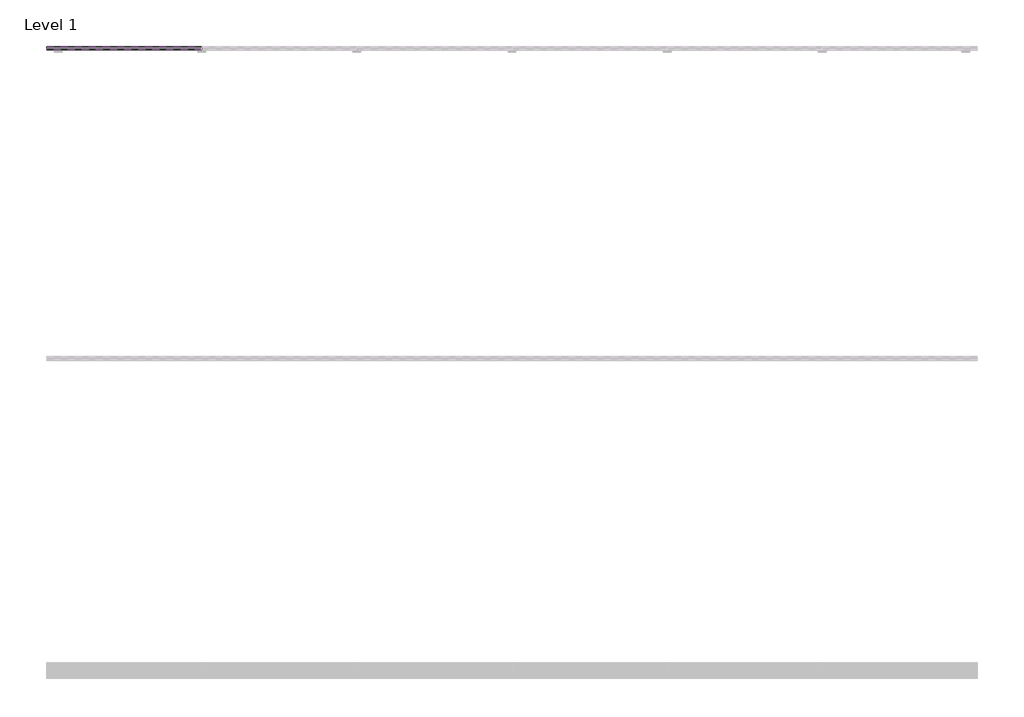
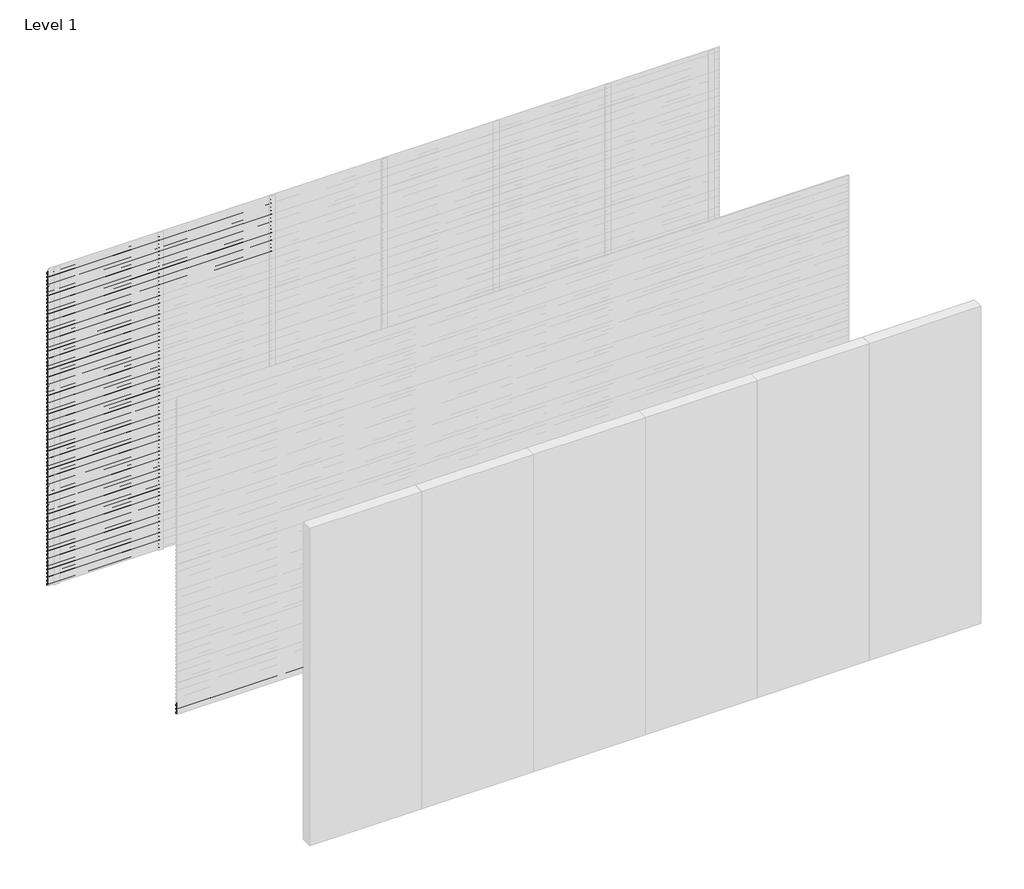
# One storey, part 21 of 25: 103 proxies.
"""IFC4 building model written with IfcOpenShell, lengths in millimetres."""

from ifc_helpers import new_model, si_unit, frame, origin, place, context, project, spatial, polyline, outline, extrude, element, save

model = new_model("IFC4")

# Units and contexts
model_context = context("Model", 3, world=origin())
ifc_project = project(units=[si_unit("LENGTHUNIT", "METRE", prefix="MILLI")], contexts=[model_context])

# Site, building, storey
site = spatial("IfcSite", under=ifc_project)
building = spatial("IfcBuilding", under=site)
storey = spatial("IfcBuildingStorey", under=building, Name="Level 1", Elevation=0.0)

# Proxies
placement = place(None, origin())
element("IfcBuildingElementProxy", 1, Name="Wall Sweeps", at=placement, inside=storey, context=model_context, shape_type="SweptSolid", body=[
    extrude(outline(polyline([(5.0, 2975.0), (5.0, 2963.942893), (24.0, 2948.0), (24.0, 2935.0), (3.0, 2952.6210923), (3.0, 2975.0), (5.0, 2975.0)])), frame((0.0, 0.0, 0.0), z_axis=(1.0, 0.0, 0.0), x_axis=(0.0, 1.0, 0.0)), (0.0, 0.0, 1.0), 1000.0),
])
element("IfcBuildingElementProxy", 2, Name="Wall Sweeps", at=placement, inside=storey, context=model_context, shape_type="SweptSolid", body=[
    extrude(outline(polyline([(5.0, 2940.0), (5.0, 2928.942893), (24.0, 2913.0), (24.0, 2900.0), (3.0, 2917.6210923), (3.0, 2940.0), (5.0, 2940.0)])), frame((0.0, 0.0, 0.0), z_axis=(1.0, 0.0, 0.0), x_axis=(0.0, 1.0, 0.0)), (0.0, 0.0, 1.0), 1000.0),
])
element("IfcBuildingElementProxy", 3, Name="Wall Sweeps", at=placement, inside=storey, context=model_context, shape_type="SweptSolid", body=[
    extrude(outline(polyline([(5.0, 2905.0), (5.0, 2893.942893), (24.0, 2878.0), (24.0, 2865.0), (3.0, 2882.6210923), (3.0, 2905.0), (5.0, 2905.0)])), frame((0.0, 0.0, 0.0), z_axis=(1.0, 0.0, 0.0), x_axis=(0.0, 1.0, 0.0)), (0.0, 0.0, 1.0), 1000.0),
])
element("IfcBuildingElementProxy", 4, Name="Wall Sweeps", at=placement, inside=storey, context=model_context, shape_type="SweptSolid", body=[
    extrude(outline(polyline([(5.0, 2870.0), (5.0, 2858.942893), (24.0, 2843.0), (24.0, 2830.0), (3.0, 2847.6210923), (3.0, 2870.0), (5.0, 2870.0)])), frame((0.0, 0.0, 0.0), z_axis=(1.0, 0.0, 0.0), x_axis=(0.0, 1.0, 0.0)), (0.0, 0.0, 1.0), 1000.0),
])
element("IfcBuildingElementProxy", 5, Name="Wall Sweeps", at=placement, inside=storey, context=model_context, shape_type="SweptSolid", body=[
    extrude(outline(polyline([(5.0, 2835.0), (5.0, 2823.942893), (24.0, 2808.0), (24.0, 2795.0), (3.0, 2812.6210923), (3.0, 2835.0), (5.0, 2835.0)])), frame((0.0, 0.0, 0.0), z_axis=(1.0, 0.0, 0.0), x_axis=(0.0, 1.0, 0.0)), (0.0, 0.0, 1.0), 1000.0),
])
element("IfcBuildingElementProxy", 6, Name="Wall Sweeps", at=placement, inside=storey, context=model_context, shape_type="SweptSolid", body=[
    extrude(outline(polyline([(5.0, 2800.0), (5.0, 2788.942893), (24.0, 2773.0), (24.0, 2760.0), (3.0, 2777.6210923), (3.0, 2800.0), (5.0, 2800.0)])), frame((0.0, 0.0, 0.0), z_axis=(1.0, 0.0, 0.0), x_axis=(0.0, 1.0, 0.0)), (0.0, 0.0, 1.0), 1000.0),
])
element("IfcBuildingElementProxy", 7, Name="Wall Sweeps", at=placement, inside=storey, context=model_context, shape_type="SweptSolid", body=[
    extrude(outline(polyline([(5.0, 2765.0), (5.0, 2753.942893), (24.0, 2738.0), (24.0, 2725.0), (3.0, 2742.6210923), (3.0, 2765.0), (5.0, 2765.0)])), frame((0.0, 0.0, 0.0), z_axis=(1.0, 0.0, 0.0), x_axis=(0.0, 1.0, 0.0)), (0.0, 0.0, 1.0), 1000.0),
])
element("IfcBuildingElementProxy", 8, Name="Wall Sweeps", at=placement, inside=storey, context=model_context, shape_type="SweptSolid", body=[
    extrude(outline(polyline([(5.0, 2730.0), (5.0, 2718.942893), (24.0, 2703.0), (24.0, 2690.0), (3.0, 2707.6210923), (3.0, 2730.0), (5.0, 2730.0)])), frame((0.0, 0.0, 0.0), z_axis=(1.0, 0.0, 0.0), x_axis=(0.0, 1.0, 0.0)), (0.0, 0.0, 1.0), 1000.0),
])
element("IfcBuildingElementProxy", 9, Name="Wall Sweeps", at=placement, inside=storey, context=model_context, shape_type="SweptSolid", body=[
    extrude(outline(polyline([(5.0, 2695.0), (5.0, 2683.942893), (24.0, 2668.0), (24.0, 2655.0), (3.0, 2672.6210923), (3.0, 2695.0), (5.0, 2695.0)])), frame((0.0, 0.0, 0.0), z_axis=(1.0, 0.0, 0.0), x_axis=(0.0, 1.0, 0.0)), (0.0, 0.0, 1.0), 1000.0),
])
element("IfcBuildingElementProxy", 10, Name="Wall Sweeps", at=placement, inside=storey, context=model_context, shape_type="SweptSolid", body=[
    extrude(outline(polyline([(5.0, 2660.0), (5.0, 2648.942893), (24.0, 2633.0), (24.0, 2620.0), (3.0, 2637.6210923), (3.0, 2660.0), (5.0, 2660.0)])), frame((0.0, 0.0, 0.0), z_axis=(1.0, 0.0, 0.0), x_axis=(0.0, 1.0, 0.0)), (0.0, 0.0, 1.0), 1000.0),
])
element("IfcBuildingElementProxy", 11, Name="Wall Sweeps", at=placement, inside=storey, context=model_context, shape_type="SweptSolid", body=[
    extrude(outline(polyline([(5.0, 2625.0), (5.0, 2613.942893), (24.0, 2598.0), (24.0, 2585.0), (3.0, 2602.6210923), (3.0, 2625.0), (5.0, 2625.0)])), frame((0.0, 0.0, 0.0), z_axis=(1.0, 0.0, 0.0), x_axis=(0.0, 1.0, 0.0)), (0.0, 0.0, 1.0), 1000.0),
])
element("IfcBuildingElementProxy", 12, Name="Wall Sweeps", at=placement, inside=storey, context=model_context, shape_type="SweptSolid", body=[
    extrude(outline(polyline([(5.0, 2590.0), (5.0, 2578.942893), (24.0, 2563.0), (24.0, 2550.0), (3.0, 2567.6210923), (3.0, 2590.0), (5.0, 2590.0)])), frame((0.0, 0.0, 0.0), z_axis=(1.0, 0.0, 0.0), x_axis=(0.0, 1.0, 0.0)), (0.0, 0.0, 1.0), 1000.0),
])
element("IfcBuildingElementProxy", 13, Name="Wall Sweeps", at=placement, inside=storey, context=model_context, shape_type="SweptSolid", body=[
    extrude(outline(polyline([(5.0, 2555.0), (5.0, 2543.942893), (24.0, 2528.0), (24.0, 2515.0), (3.0, 2532.6210923), (3.0, 2555.0), (5.0, 2555.0)])), frame((0.0, 0.0, 0.0), z_axis=(1.0, 0.0, 0.0), x_axis=(0.0, 1.0, 0.0)), (0.0, 0.0, 1.0), 1000.0),
])
element("IfcBuildingElementProxy", 14, Name="Wall Sweeps", at=placement, inside=storey, context=model_context, shape_type="SweptSolid", body=[
    extrude(outline(polyline([(5.0, 2520.0), (5.0, 2508.942893), (24.0, 2493.0), (24.0, 2480.0), (3.0, 2497.6210923), (3.0, 2520.0), (5.0, 2520.0)])), frame((0.0, 0.0, 0.0), z_axis=(1.0, 0.0, 0.0), x_axis=(0.0, 1.0, 0.0)), (0.0, 0.0, 1.0), 1000.0),
])
element("IfcBuildingElementProxy", 15, Name="Wall Sweeps", at=placement, inside=storey, context=model_context, shape_type="SweptSolid", body=[
    extrude(outline(polyline([(5.0, 2485.0), (5.0, 2473.942893), (24.0, 2458.0), (24.0, 2445.0), (3.0, 2462.6210923), (3.0, 2485.0), (5.0, 2485.0)])), frame((0.0, 0.0, 0.0), z_axis=(1.0, 0.0, 0.0), x_axis=(0.0, 1.0, 0.0)), (0.0, 0.0, 1.0), 1000.0),
])
element("IfcBuildingElementProxy", 16, Name="Wall Sweeps", at=placement, inside=storey, context=model_context, shape_type="SweptSolid", body=[
    extrude(outline(polyline([(5.0, 2450.0), (5.0, 2438.942893), (24.0, 2423.0), (24.0, 2410.0), (3.0, 2427.6210923), (3.0, 2450.0), (5.0, 2450.0)])), frame((0.0, 0.0, 0.0), z_axis=(1.0, 0.0, 0.0), x_axis=(0.0, 1.0, 0.0)), (0.0, 0.0, 1.0), 1000.0),
])
element("IfcBuildingElementProxy", 17, Name="Wall Sweeps", at=placement, inside=storey, context=model_context, shape_type="SweptSolid", body=[
    extrude(outline(polyline([(5.0, 2415.0), (5.0, 2403.942893), (24.0, 2388.0), (24.0, 2375.0), (3.0, 2392.6210923), (3.0, 2415.0), (5.0, 2415.0)])), frame((0.0, 0.0, 0.0), z_axis=(1.0, 0.0, 0.0), x_axis=(0.0, 1.0, 0.0)), (0.0, 0.0, 1.0), 1000.0),
])
element("IfcBuildingElementProxy", 18, Name="Wall Sweeps", at=placement, inside=storey, context=model_context, shape_type="SweptSolid", body=[
    extrude(outline(polyline([(5.0, 2380.0), (5.0, 2368.942893), (24.0, 2353.0), (24.0, 2340.0), (3.0, 2357.6210923), (3.0, 2380.0), (5.0, 2380.0)])), frame((0.0, 0.0, 0.0), z_axis=(1.0, 0.0, 0.0), x_axis=(0.0, 1.0, 0.0)), (0.0, 0.0, 1.0), 1000.0),
])
element("IfcBuildingElementProxy", 19, Name="Wall Sweeps", at=placement, inside=storey, context=model_context, shape_type="SweptSolid", body=[
    extrude(outline(polyline([(5.0, 2345.0), (5.0, 2333.942893), (24.0, 2318.0), (24.0, 2305.0), (3.0, 2322.6210923), (3.0, 2345.0), (5.0, 2345.0)])), frame((0.0, 0.0, 0.0), z_axis=(1.0, 0.0, 0.0), x_axis=(0.0, 1.0, 0.0)), (0.0, 0.0, 1.0), 1000.0),
])
element("IfcBuildingElementProxy", 20, Name="Wall Sweeps", at=placement, inside=storey, context=model_context, shape_type="SweptSolid", body=[
    extrude(outline(polyline([(5.0, 2310.0), (5.0, 2298.942893), (24.0, 2283.0), (24.0, 2270.0), (3.0, 2287.6210923), (3.0, 2310.0), (5.0, 2310.0)])), frame((0.0, 0.0, 0.0), z_axis=(1.0, 0.0, 0.0), x_axis=(0.0, 1.0, 0.0)), (0.0, 0.0, 1.0), 1000.0),
])
element("IfcBuildingElementProxy", 21, Name="Wall Sweeps", at=placement, inside=storey, context=model_context, shape_type="SweptSolid", body=[
    extrude(outline(polyline([(5.0, 2275.0), (5.0, 2263.942893), (24.0, 2248.0), (24.0, 2235.0), (3.0, 2252.6210923), (3.0, 2275.0), (5.0, 2275.0)])), frame((0.0, 0.0, 0.0), z_axis=(1.0, 0.0, 0.0), x_axis=(0.0, 1.0, 0.0)), (0.0, 0.0, 1.0), 1000.0),
])
element("IfcBuildingElementProxy", 22, Name="Wall Sweeps", at=placement, inside=storey, context=model_context, shape_type="SweptSolid", body=[
    extrude(outline(polyline([(5.0, 2240.0), (5.0, 2228.942893), (24.0, 2213.0), (24.0, 2200.0), (3.0, 2217.6210923), (3.0, 2240.0), (5.0, 2240.0)])), frame((0.0, 0.0, 0.0), z_axis=(1.0, 0.0, 0.0), x_axis=(0.0, 1.0, 0.0)), (0.0, 0.0, 1.0), 1000.0),
])
element("IfcBuildingElementProxy", 23, Name="Wall Sweeps", at=placement, inside=storey, context=model_context, shape_type="SweptSolid", body=[
    extrude(outline(polyline([(5.0, 2205.0), (5.0, 2193.942893), (24.0, 2178.0), (24.0, 2165.0), (3.0, 2182.6210923), (3.0, 2205.0), (5.0, 2205.0)])), frame((0.0, 0.0, 0.0), z_axis=(1.0, 0.0, 0.0), x_axis=(0.0, 1.0, 0.0)), (0.0, 0.0, 1.0), 1000.0),
])
element("IfcBuildingElementProxy", 24, Name="Wall Sweeps", at=placement, inside=storey, context=model_context, shape_type="SweptSolid", body=[
    extrude(outline(polyline([(5.0, 2170.0), (5.0, 2158.942893), (24.0, 2143.0), (24.0, 2130.0), (3.0, 2147.6210923), (3.0, 2170.0), (5.0, 2170.0)])), frame((0.0, 0.0, 0.0), z_axis=(1.0, 0.0, 0.0), x_axis=(0.0, 1.0, 0.0)), (0.0, 0.0, 1.0), 1000.0),
])
element("IfcBuildingElementProxy", 25, Name="Wall Sweeps", at=placement, inside=storey, context=model_context, shape_type="SweptSolid", body=[
    extrude(outline(polyline([(5.0, 2135.0), (5.0, 2123.942893), (24.0, 2108.0), (24.0, 2095.0), (3.0, 2112.6210923), (3.0, 2135.0), (5.0, 2135.0)])), frame((0.0, 0.0, 0.0), z_axis=(1.0, 0.0, 0.0), x_axis=(0.0, 1.0, 0.0)), (0.0, 0.0, 1.0), 1000.0),
])
element("IfcBuildingElementProxy", 26, Name="Wall Sweeps", at=placement, inside=storey, context=model_context, shape_type="SweptSolid", body=[
    extrude(outline(polyline([(5.0, 2100.0), (5.0, 2088.942893), (24.0, 2073.0), (24.0, 2060.0), (3.0, 2077.6210923), (3.0, 2100.0), (5.0, 2100.0)])), frame((0.0, 0.0, 0.0), z_axis=(1.0, 0.0, 0.0), x_axis=(0.0, 1.0, 0.0)), (0.0, 0.0, 1.0), 1000.0),
])
element("IfcBuildingElementProxy", 27, Name="Wall Sweeps", at=placement, inside=storey, context=model_context, shape_type="SweptSolid", body=[
    extrude(outline(polyline([(5.0, 2065.0), (5.0, 2053.942893), (24.0, 2038.0), (24.0, 2025.0), (3.0, 2042.6210923), (3.0, 2065.0), (5.0, 2065.0)])), frame((0.0, 0.0, 0.0), z_axis=(1.0, 0.0, 0.0), x_axis=(0.0, 1.0, 0.0)), (0.0, 0.0, 1.0), 1000.0),
])
element("IfcBuildingElementProxy", 28, Name="Wall Sweeps", at=placement, inside=storey, context=model_context, shape_type="SweptSolid", body=[
    extrude(outline(polyline([(5.0, 2030.0), (5.0, 2018.942893), (24.0, 2003.0), (24.0, 1990.0), (3.0, 2007.6210923), (3.0, 2030.0), (5.0, 2030.0)])), frame((0.0, 0.0, 0.0), z_axis=(1.0, 0.0, 0.0), x_axis=(0.0, 1.0, 0.0)), (0.0, 0.0, 1.0), 1000.0),
])
element("IfcBuildingElementProxy", 29, Name="Wall Sweeps", at=placement, inside=storey, context=model_context, shape_type="SweptSolid", body=[
    extrude(outline(polyline([(5.0, 1995.0), (5.0, 1983.942893), (24.0, 1968.0), (24.0, 1955.0), (3.0, 1972.6210923), (3.0, 1995.0), (5.0, 1995.0)])), frame((0.0, 0.0, 0.0), z_axis=(1.0, 0.0, 0.0), x_axis=(0.0, 1.0, 0.0)), (0.0, 0.0, 1.0), 1000.0),
])
element("IfcBuildingElementProxy", 30, Name="Wall Sweeps", at=placement, inside=storey, context=model_context, shape_type="SweptSolid", body=[
    extrude(outline(polyline([(5.0, 1960.0), (5.0, 1948.942893), (24.0, 1933.0), (24.0, 1920.0), (3.0, 1937.6210923), (3.0, 1960.0), (5.0, 1960.0)])), frame((0.0, 0.0, 0.0), z_axis=(1.0, 0.0, 0.0), x_axis=(0.0, 1.0, 0.0)), (0.0, 0.0, 1.0), 1000.0),
])
element("IfcBuildingElementProxy", 31, Name="Wall Sweeps", at=placement, inside=storey, context=model_context, shape_type="SweptSolid", body=[
    extrude(outline(polyline([(5.0, 1925.0), (5.0, 1913.942893), (24.0, 1898.0), (24.0, 1885.0), (3.0, 1902.6210923), (3.0, 1925.0), (5.0, 1925.0)])), frame((0.0, 0.0, 0.0), z_axis=(1.0, 0.0, 0.0), x_axis=(0.0, 1.0, 0.0)), (0.0, 0.0, 1.0), 1000.0),
])
element("IfcBuildingElementProxy", 32, Name="Wall Sweeps", at=placement, inside=storey, context=model_context, shape_type="SweptSolid", body=[
    extrude(outline(polyline([(5.0, 1890.0), (5.0, 1878.942893), (24.0, 1863.0), (24.0, 1850.0), (3.0, 1867.6210923), (3.0, 1890.0), (5.0, 1890.0)])), frame((0.0, 0.0, 0.0), z_axis=(1.0, 0.0, 0.0), x_axis=(0.0, 1.0, 0.0)), (0.0, 0.0, 1.0), 1000.0),
])
element("IfcBuildingElementProxy", 33, Name="Wall Sweeps", at=placement, inside=storey, context=model_context, shape_type="SweptSolid", body=[
    extrude(outline(polyline([(5.0, 1855.0), (5.0, 1843.942893), (24.0, 1828.0), (24.0, 1815.0), (3.0, 1832.6210923), (3.0, 1855.0), (5.0, 1855.0)])), frame((0.0, 0.0, 0.0), z_axis=(1.0, 0.0, 0.0), x_axis=(0.0, 1.0, 0.0)), (0.0, 0.0, 1.0), 1000.0),
])
element("IfcBuildingElementProxy", 34, Name="Wall Sweeps", at=placement, inside=storey, context=model_context, shape_type="SweptSolid", body=[
    extrude(outline(polyline([(5.0, 1820.0), (5.0, 1808.942893), (24.0, 1793.0), (24.0, 1780.0), (3.0, 1797.6210923), (3.0, 1820.0), (5.0, 1820.0)])), frame((0.0, 0.0, 0.0), z_axis=(1.0, 0.0, 0.0), x_axis=(0.0, 1.0, 0.0)), (0.0, 0.0, 1.0), 1000.0),
])
element("IfcBuildingElementProxy", 35, Name="Wall Sweeps", at=placement, inside=storey, context=model_context, shape_type="SweptSolid", body=[
    extrude(outline(polyline([(5.0, 1785.0), (5.0, 1773.942893), (24.0, 1758.0), (24.0, 1745.0), (3.0, 1762.6210923), (3.0, 1785.0), (5.0, 1785.0)])), frame((0.0, 0.0, 0.0), z_axis=(1.0, 0.0, 0.0), x_axis=(0.0, 1.0, 0.0)), (0.0, 0.0, 1.0), 1000.0),
])
element("IfcBuildingElementProxy", 36, Name="Wall Sweeps", at=placement, inside=storey, context=model_context, shape_type="SweptSolid", body=[
    extrude(outline(polyline([(5.0, 1750.0), (5.0, 1738.942893), (24.0, 1723.0), (24.0, 1710.0), (3.0, 1727.6210923), (3.0, 1750.0), (5.0, 1750.0)])), frame((0.0, 0.0, 0.0), z_axis=(1.0, 0.0, 0.0), x_axis=(0.0, 1.0, 0.0)), (0.0, 0.0, 1.0), 1000.0),
])
element("IfcBuildingElementProxy", 37, Name="Wall Sweeps", at=placement, inside=storey, context=model_context, shape_type="SweptSolid", body=[
    extrude(outline(polyline([(5.0, 1715.0), (5.0, 1703.942893), (24.0, 1688.0), (24.0, 1675.0), (3.0, 1692.6210923), (3.0, 1715.0), (5.0, 1715.0)])), frame((0.0, 0.0, 0.0), z_axis=(1.0, 0.0, 0.0), x_axis=(0.0, 1.0, 0.0)), (0.0, 0.0, 1.0), 1000.0),
])
element("IfcBuildingElementProxy", 38, Name="Wall Sweeps", at=placement, inside=storey, context=model_context, shape_type="SweptSolid", body=[
    extrude(outline(polyline([(5.0, 1680.0), (5.0, 1668.942893), (24.0, 1653.0), (24.0, 1640.0), (3.0, 1657.6210923), (3.0, 1680.0), (5.0, 1680.0)])), frame((0.0, 0.0, 0.0), z_axis=(1.0, 0.0, 0.0), x_axis=(0.0, 1.0, 0.0)), (0.0, 0.0, 1.0), 1000.0),
])
element("IfcBuildingElementProxy", 39, Name="Wall Sweeps", at=placement, inside=storey, context=model_context, shape_type="SweptSolid", body=[
    extrude(outline(polyline([(5.0, 1645.0), (5.0, 1633.942893), (24.0, 1618.0), (24.0, 1605.0), (3.0, 1622.6210923), (3.0, 1645.0), (5.0, 1645.0)])), frame((0.0, 0.0, 0.0), z_axis=(1.0, 0.0, 0.0), x_axis=(0.0, 1.0, 0.0)), (0.0, 0.0, 1.0), 1000.0),
])
element("IfcBuildingElementProxy", 40, Name="Wall Sweeps", at=placement, inside=storey, context=model_context, shape_type="SweptSolid", body=[
    extrude(outline(polyline([(5.0, 1610.0), (5.0, 1598.942893), (24.0, 1583.0), (24.0, 1570.0), (3.0, 1587.6210923), (3.0, 1610.0), (5.0, 1610.0)])), frame((0.0, 0.0, 0.0), z_axis=(1.0, 0.0, 0.0), x_axis=(0.0, 1.0, 0.0)), (0.0, 0.0, 1.0), 1000.0),
])
element("IfcBuildingElementProxy", 41, Name="Wall Sweeps", at=placement, inside=storey, context=model_context, shape_type="SweptSolid", body=[
    extrude(outline(polyline([(5.0, 1575.0), (5.0, 1563.942893), (24.0, 1548.0), (24.0, 1535.0), (3.0, 1552.6210923), (3.0, 1575.0), (5.0, 1575.0)])), frame((0.0, 0.0, 0.0), z_axis=(1.0, 0.0, 0.0), x_axis=(0.0, 1.0, 0.0)), (0.0, 0.0, 1.0), 1000.0),
])
element("IfcBuildingElementProxy", 42, Name="Wall Sweeps", at=placement, inside=storey, context=model_context, shape_type="SweptSolid", body=[
    extrude(outline(polyline([(5.0, 1540.0), (5.0, 1528.942893), (24.0, 1513.0), (24.0, 1500.0), (3.0, 1517.6210923), (3.0, 1540.0), (5.0, 1540.0)])), frame((0.0, 0.0, 0.0), z_axis=(1.0, 0.0, 0.0), x_axis=(0.0, 1.0, 0.0)), (0.0, 0.0, 1.0), 1000.0),
])
element("IfcBuildingElementProxy", 43, Name="Wall Sweeps", at=placement, inside=storey, context=model_context, shape_type="SweptSolid", body=[
    extrude(outline(polyline([(5.0, 1505.0), (5.0, 1493.942893), (24.0, 1478.0), (24.0, 1465.0), (3.0, 1482.6210923), (3.0, 1505.0), (5.0, 1505.0)])), frame((0.0, 0.0, 0.0), z_axis=(1.0, 0.0, 0.0), x_axis=(0.0, 1.0, 0.0)), (0.0, 0.0, 1.0), 1000.0),
])
element("IfcBuildingElementProxy", 44, Name="Wall Sweeps", at=placement, inside=storey, context=model_context, shape_type="SweptSolid", body=[
    extrude(outline(polyline([(5.0, 1470.0), (5.0, 1458.942893), (24.0, 1443.0), (24.0, 1430.0), (3.0, 1447.6210923), (3.0, 1470.0), (5.0, 1470.0)])), frame((0.0, 0.0, 0.0), z_axis=(1.0, 0.0, 0.0), x_axis=(0.0, 1.0, 0.0)), (0.0, 0.0, 1.0), 1000.0),
])
element("IfcBuildingElementProxy", 45, Name="Wall Sweeps", at=placement, inside=storey, context=model_context, shape_type="SweptSolid", body=[
    extrude(outline(polyline([(5.0, 1435.0), (5.0, 1423.942893), (24.0, 1408.0), (24.0, 1395.0), (3.0, 1412.6210923), (3.0, 1435.0), (5.0, 1435.0)])), frame((0.0, 0.0, 0.0), z_axis=(1.0, 0.0, 0.0), x_axis=(0.0, 1.0, 0.0)), (0.0, 0.0, 1.0), 1000.0),
])
element("IfcBuildingElementProxy", 46, Name="Wall Sweeps", at=placement, inside=storey, context=model_context, shape_type="SweptSolid", body=[
    extrude(outline(polyline([(5.0, 1400.0), (5.0, 1388.942893), (24.0, 1373.0), (24.0, 1360.0), (3.0, 1377.6210923), (3.0, 1400.0), (5.0, 1400.0)])), frame((0.0, 0.0, 0.0), z_axis=(1.0, 0.0, 0.0), x_axis=(0.0, 1.0, 0.0)), (0.0, 0.0, 1.0), 1000.0),
])
element("IfcBuildingElementProxy", 47, Name="Wall Sweeps", at=placement, inside=storey, context=model_context, shape_type="SweptSolid", body=[
    extrude(outline(polyline([(5.0, 1365.0), (5.0, 1353.942893), (24.0, 1338.0), (24.0, 1325.0), (3.0, 1342.6210923), (3.0, 1365.0), (5.0, 1365.0)])), frame((0.0, 0.0, 0.0), z_axis=(1.0, 0.0, 0.0), x_axis=(0.0, 1.0, 0.0)), (0.0, 0.0, 1.0), 1000.0),
])
element("IfcBuildingElementProxy", 48, Name="Wall Sweeps", at=placement, inside=storey, context=model_context, shape_type="SweptSolid", body=[
    extrude(outline(polyline([(5.0, 1330.0), (5.0, 1318.942893), (24.0, 1303.0), (24.0, 1290.0), (3.0, 1307.6210923), (3.0, 1330.0), (5.0, 1330.0)])), frame((0.0, 0.0, 0.0), z_axis=(1.0, 0.0, 0.0), x_axis=(0.0, 1.0, 0.0)), (0.0, 0.0, 1.0), 1000.0),
])
element("IfcBuildingElementProxy", 49, Name="Wall Sweeps", at=placement, inside=storey, context=model_context, shape_type="SweptSolid", body=[
    extrude(outline(polyline([(5.0, 1295.0), (5.0, 1283.942893), (24.0, 1268.0), (24.0, 1255.0), (3.0, 1272.6210923), (3.0, 1295.0), (5.0, 1295.0)])), frame((0.0, 0.0, 0.0), z_axis=(1.0, 0.0, 0.0), x_axis=(0.0, 1.0, 0.0)), (0.0, 0.0, 1.0), 1000.0),
])
element("IfcBuildingElementProxy", 50, Name="Wall Sweeps", at=placement, inside=storey, context=model_context, shape_type="SweptSolid", body=[
    extrude(outline(polyline([(5.0, 1260.0), (5.0, 1248.942893), (24.0, 1233.0), (24.0, 1220.0), (3.0, 1237.6210923), (3.0, 1260.0), (5.0, 1260.0)])), frame((0.0, 0.0, 0.0), z_axis=(1.0, 0.0, 0.0), x_axis=(0.0, 1.0, 0.0)), (0.0, 0.0, 1.0), 1000.0),
])
element("IfcBuildingElementProxy", 51, Name="Wall Sweeps", at=placement, inside=storey, context=model_context, shape_type="SweptSolid", body=[
    extrude(outline(polyline([(5.0, 1225.0), (5.0, 1213.942893), (24.0, 1198.0), (24.0, 1185.0), (3.0, 1202.6210923), (3.0, 1225.0), (5.0, 1225.0)])), frame((0.0, 0.0, 0.0), z_axis=(1.0, 0.0, 0.0), x_axis=(0.0, 1.0, 0.0)), (0.0, 0.0, 1.0), 1000.0),
])
element("IfcBuildingElementProxy", 52, Name="Wall Sweeps", at=placement, inside=storey, context=model_context, shape_type="SweptSolid", body=[
    extrude(outline(polyline([(5.0, 1190.0), (5.0, 1178.942893), (24.0, 1163.0), (24.0, 1150.0), (3.0, 1167.6210923), (3.0, 1190.0), (5.0, 1190.0)])), frame((0.0, 0.0, 0.0), z_axis=(1.0, 0.0, 0.0), x_axis=(0.0, 1.0, 0.0)), (0.0, 0.0, 1.0), 1000.0),
])
element("IfcBuildingElementProxy", 53, Name="Wall Sweeps", at=placement, inside=storey, context=model_context, shape_type="SweptSolid", body=[
    extrude(outline(polyline([(5.0, 1155.0), (5.0, 1143.942893), (24.0, 1128.0), (24.0, 1115.0), (3.0, 1132.6210923), (3.0, 1155.0), (5.0, 1155.0)])), frame((0.0, 0.0, 0.0), z_axis=(1.0, 0.0, 0.0), x_axis=(0.0, 1.0, 0.0)), (0.0, 0.0, 1.0), 1000.0),
])
element("IfcBuildingElementProxy", 54, Name="Wall Sweeps", at=placement, inside=storey, context=model_context, shape_type="SweptSolid", body=[
    extrude(outline(polyline([(5.0, 1120.0), (5.0, 1108.942893), (24.0, 1093.0), (24.0, 1080.0), (3.0, 1097.6210923), (3.0, 1120.0), (5.0, 1120.0)])), frame((0.0, 0.0, 0.0), z_axis=(1.0, 0.0, 0.0), x_axis=(0.0, 1.0, 0.0)), (0.0, 0.0, 1.0), 1000.0),
])
element("IfcBuildingElementProxy", 55, Name="Wall Sweeps", at=placement, inside=storey, context=model_context, shape_type="SweptSolid", body=[
    extrude(outline(polyline([(5.0, 1085.0), (5.0, 1073.942893), (24.0, 1058.0), (24.0, 1045.0), (3.0, 1062.6210923), (3.0, 1085.0), (5.0, 1085.0)])), frame((0.0, 0.0, 0.0), z_axis=(1.0, 0.0, 0.0), x_axis=(0.0, 1.0, 0.0)), (0.0, 0.0, 1.0), 1000.0),
])
element("IfcBuildingElementProxy", 56, Name="Wall Sweeps", at=placement, inside=storey, context=model_context, shape_type="SweptSolid", body=[
    extrude(outline(polyline([(5.0, 1050.0), (5.0, 1038.942893), (24.0, 1023.0), (24.0, 1010.0), (3.0, 1027.6210923), (3.0, 1050.0), (5.0, 1050.0)])), frame((0.0, 0.0, 0.0), z_axis=(1.0, 0.0, 0.0), x_axis=(0.0, 1.0, 0.0)), (0.0, 0.0, 1.0), 1000.0),
])
element("IfcBuildingElementProxy", 57, Name="Wall Sweeps", at=placement, inside=storey, context=model_context, shape_type="SweptSolid", body=[
    extrude(outline(polyline([(5.0, 1015.0), (5.0, 1003.942893), (24.0, 988.0), (24.0, 975.0), (3.0, 992.6210923), (3.0, 1015.0), (5.0, 1015.0)])), frame((0.0, 0.0, 0.0), z_axis=(1.0, 0.0, 0.0), x_axis=(0.0, 1.0, 0.0)), (0.0, 0.0, 1.0), 1000.0),
])
element("IfcBuildingElementProxy", 58, Name="Wall Sweeps", at=placement, inside=storey, context=model_context, shape_type="SweptSolid", body=[
    extrude(outline(polyline([(5.0, 980.0), (5.0, 968.942893), (24.0, 953.0), (24.0, 940.0), (3.0, 957.6210923), (3.0, 980.0), (5.0, 980.0)])), frame((0.0, 0.0, 0.0), z_axis=(1.0, 0.0, 0.0), x_axis=(0.0, 1.0, 0.0)), (0.0, 0.0, 1.0), 1000.0),
])
element("IfcBuildingElementProxy", 59, Name="Wall Sweeps", at=placement, inside=storey, context=model_context, shape_type="SweptSolid", body=[
    extrude(outline(polyline([(5.0, 945.0), (5.0, 933.942893), (24.0, 918.0), (24.0, 905.0), (3.0, 922.6210923), (3.0, 945.0), (5.0, 945.0)])), frame((0.0, 0.0, 0.0), z_axis=(1.0, 0.0, 0.0), x_axis=(0.0, 1.0, 0.0)), (0.0, 0.0, 1.0), 1000.0),
])
element("IfcBuildingElementProxy", 60, Name="Wall Sweeps", at=placement, inside=storey, context=model_context, shape_type="SweptSolid", body=[
    extrude(outline(polyline([(5.0, 910.0), (5.0, 898.942893), (24.0, 883.0), (24.0, 870.0), (3.0, 887.6210923), (3.0, 910.0), (5.0, 910.0)])), frame((0.0, 0.0, 0.0), z_axis=(1.0, 0.0, 0.0), x_axis=(0.0, 1.0, 0.0)), (0.0, 0.0, 1.0), 1000.0),
])
element("IfcBuildingElementProxy", 61, Name="Wall Sweeps", at=placement, inside=storey, context=model_context, shape_type="SweptSolid", body=[
    extrude(outline(polyline([(5.0, 875.0), (5.0, 863.942893), (24.0, 848.0), (24.0, 835.0), (3.0, 852.6210923), (3.0, 875.0), (5.0, 875.0)])), frame((0.0, 0.0, 0.0), z_axis=(1.0, 0.0, 0.0), x_axis=(0.0, 1.0, 0.0)), (0.0, 0.0, 1.0), 1000.0),
])
element("IfcBuildingElementProxy", 62, Name="Wall Sweeps", at=placement, inside=storey, context=model_context, shape_type="SweptSolid", body=[
    extrude(outline(polyline([(5.0, 840.0), (5.0, 828.942893), (24.0, 813.0), (24.0, 800.0), (3.0, 817.6210923), (3.0, 840.0), (5.0, 840.0)])), frame((0.0, 0.0, 0.0), z_axis=(1.0, 0.0, 0.0), x_axis=(0.0, 1.0, 0.0)), (0.0, 0.0, 1.0), 1000.0),
])
element("IfcBuildingElementProxy", 63, Name="Wall Sweeps", at=placement, inside=storey, context=model_context, shape_type="SweptSolid", body=[
    extrude(outline(polyline([(5.0, 805.0), (5.0, 793.942893), (24.0, 778.0), (24.0, 765.0), (3.0, 782.6210923), (3.0, 805.0), (5.0, 805.0)])), frame((0.0, 0.0, 0.0), z_axis=(1.0, 0.0, 0.0), x_axis=(0.0, 1.0, 0.0)), (0.0, 0.0, 1.0), 1000.0),
])
element("IfcBuildingElementProxy", 64, Name="Wall Sweeps", at=placement, inside=storey, context=model_context, shape_type="SweptSolid", body=[
    extrude(outline(polyline([(5.0, 770.0), (5.0, 758.942893), (24.0, 743.0), (24.0, 730.0), (3.0, 747.6210923), (3.0, 770.0), (5.0, 770.0)])), frame((0.0, 0.0, 0.0), z_axis=(1.0, 0.0, 0.0), x_axis=(0.0, 1.0, 0.0)), (0.0, 0.0, 1.0), 1000.0),
])
element("IfcBuildingElementProxy", 65, Name="Wall Sweeps", at=placement, inside=storey, context=model_context, shape_type="SweptSolid", body=[
    extrude(outline(polyline([(5.0, 735.0), (5.0, 723.942893), (24.0, 708.0), (24.0, 695.0), (3.0, 712.6210923), (3.0, 735.0), (5.0, 735.0)])), frame((0.0, 0.0, 0.0), z_axis=(1.0, 0.0, 0.0), x_axis=(0.0, 1.0, 0.0)), (0.0, 0.0, 1.0), 1000.0),
])
element("IfcBuildingElementProxy", 66, Name="Wall Sweeps", at=placement, inside=storey, context=model_context, shape_type="SweptSolid", body=[
    extrude(outline(polyline([(5.0, 700.0), (5.0, 688.942893), (24.0, 673.0), (24.0, 660.0), (3.0, 677.6210923), (3.0, 700.0), (5.0, 700.0)])), frame((0.0, 0.0, 0.0), z_axis=(1.0, 0.0, 0.0), x_axis=(0.0, 1.0, 0.0)), (0.0, 0.0, 1.0), 1000.0),
])
element("IfcBuildingElementProxy", 67, Name="Wall Sweeps", at=placement, inside=storey, context=model_context, shape_type="SweptSolid", body=[
    extrude(outline(polyline([(5.0, 665.0), (5.0, 653.942893), (24.0, 638.0), (24.0, 625.0), (3.0, 642.6210923), (3.0, 665.0), (5.0, 665.0)])), frame((0.0, 0.0, 0.0), z_axis=(1.0, 0.0, 0.0), x_axis=(0.0, 1.0, 0.0)), (0.0, 0.0, 1.0), 1000.0),
])
element("IfcBuildingElementProxy", 68, Name="Wall Sweeps", at=placement, inside=storey, context=model_context, shape_type="SweptSolid", body=[
    extrude(outline(polyline([(5.0, 630.0), (5.0, 618.942893), (24.0, 603.0), (24.0, 590.0), (3.0, 607.6210923), (3.0, 630.0), (5.0, 630.0)])), frame((0.0, 0.0, 0.0), z_axis=(1.0, 0.0, 0.0), x_axis=(0.0, 1.0, 0.0)), (0.0, 0.0, 1.0), 1000.0),
])
element("IfcBuildingElementProxy", 69, Name="Wall Sweeps", at=placement, inside=storey, context=model_context, shape_type="SweptSolid", body=[
    extrude(outline(polyline([(5.0, 595.0), (5.0, 583.942893), (24.0, 568.0), (24.0, 555.0), (3.0, 572.6210923), (3.0, 595.0), (5.0, 595.0)])), frame((0.0, 0.0, 0.0), z_axis=(1.0, 0.0, 0.0), x_axis=(0.0, 1.0, 0.0)), (0.0, 0.0, 1.0), 1000.0),
])
element("IfcBuildingElementProxy", 70, Name="Wall Sweeps", at=placement, inside=storey, context=model_context, shape_type="SweptSolid", body=[
    extrude(outline(polyline([(5.0, 560.0), (5.0, 548.942893), (24.0, 533.0), (24.0, 520.0), (3.0, 537.6210923), (3.0, 560.0), (5.0, 560.0)])), frame((0.0, 0.0, 0.0), z_axis=(1.0, 0.0, 0.0), x_axis=(0.0, 1.0, 0.0)), (0.0, 0.0, 1.0), 1000.0),
])
element("IfcBuildingElementProxy", 71, Name="Wall Sweeps", at=placement, inside=storey, context=model_context, shape_type="SweptSolid", body=[
    extrude(outline(polyline([(5.0, 525.0), (5.0, 513.942893), (24.0, 498.0), (24.0, 485.0), (3.0, 502.6210923), (3.0, 525.0), (5.0, 525.0)])), frame((0.0, 0.0, 0.0), z_axis=(1.0, 0.0, 0.0), x_axis=(0.0, 1.0, 0.0)), (0.0, 0.0, 1.0), 1000.0),
])
element("IfcBuildingElementProxy", 72, Name="Wall Sweeps", at=placement, inside=storey, context=model_context, shape_type="SweptSolid", body=[
    extrude(outline(polyline([(5.0, 490.0), (5.0, 478.942893), (24.0, 463.0), (24.0, 450.0), (3.0, 467.6210923), (3.0, 490.0), (5.0, 490.0)])), frame((0.0, 0.0, 0.0), z_axis=(1.0, 0.0, 0.0), x_axis=(0.0, 1.0, 0.0)), (0.0, 0.0, 1.0), 1000.0),
])
element("IfcBuildingElementProxy", 73, Name="Wall Sweeps", at=placement, inside=storey, context=model_context, shape_type="SweptSolid", body=[
    extrude(outline(polyline([(5.0, 455.0), (5.0, 443.942893), (24.0, 428.0), (24.0, 415.0), (3.0, 432.6210923), (3.0, 455.0), (5.0, 455.0)])), frame((0.0, 0.0, 0.0), z_axis=(1.0, 0.0, 0.0), x_axis=(0.0, 1.0, 0.0)), (0.0, 0.0, 1.0), 1000.0),
])
element("IfcBuildingElementProxy", 74, Name="Wall Sweeps", at=placement, inside=storey, context=model_context, shape_type="SweptSolid", body=[
    extrude(outline(polyline([(5.0, 420.0), (5.0, 408.942893), (24.0, 393.0), (24.0, 380.0), (3.0, 397.6210923), (3.0, 420.0), (5.0, 420.0)])), frame((0.0, 0.0, 0.0), z_axis=(1.0, 0.0, 0.0), x_axis=(0.0, 1.0, 0.0)), (0.0, 0.0, 1.0), 1000.0),
])
element("IfcBuildingElementProxy", 75, Name="Wall Sweeps", at=placement, inside=storey, context=model_context, shape_type="SweptSolid", body=[
    extrude(outline(polyline([(5.0, 385.0), (5.0, 373.942893), (24.0, 358.0), (24.0, 345.0), (3.0, 362.6210923), (3.0, 385.0), (5.0, 385.0)])), frame((0.0, 0.0, 0.0), z_axis=(1.0, 0.0, 0.0), x_axis=(0.0, 1.0, 0.0)), (0.0, 0.0, 1.0), 1000.0),
])
element("IfcBuildingElementProxy", 76, Name="Wall Sweeps", at=placement, inside=storey, context=model_context, shape_type="SweptSolid", body=[
    extrude(outline(polyline([(5.0, 350.0), (5.0, 338.942893), (24.0, 323.0), (24.0, 310.0), (3.0, 327.6210923), (3.0, 350.0), (5.0, 350.0)])), frame((0.0, 0.0, 0.0), z_axis=(1.0, 0.0, 0.0), x_axis=(0.0, 1.0, 0.0)), (0.0, 0.0, 1.0), 1000.0),
])
element("IfcBuildingElementProxy", 77, Name="Wall Sweeps", at=placement, inside=storey, context=model_context, shape_type="SweptSolid", body=[
    extrude(outline(polyline([(5.0, 315.0), (5.0, 303.942893), (24.0, 288.0), (24.0, 275.0), (3.0, 292.6210923), (3.0, 315.0), (5.0, 315.0)])), frame((0.0, 0.0, 0.0), z_axis=(1.0, 0.0, 0.0), x_axis=(0.0, 1.0, 0.0)), (0.0, 0.0, 1.0), 1000.0),
])
element("IfcBuildingElementProxy", 78, Name="Wall Sweeps", at=placement, inside=storey, context=model_context, shape_type="SweptSolid", body=[
    extrude(outline(polyline([(5.0, 280.0), (5.0, 268.942893), (24.0, 253.0), (24.0, 240.0), (3.0, 257.6210923), (3.0, 280.0), (5.0, 280.0)])), frame((0.0, 0.0, 0.0), z_axis=(1.0, 0.0, 0.0), x_axis=(0.0, 1.0, 0.0)), (0.0, 0.0, 1.0), 1000.0),
])
element("IfcBuildingElementProxy", 79, Name="Wall Sweeps", at=placement, inside=storey, context=model_context, shape_type="SweptSolid", body=[
    extrude(outline(polyline([(5.0, 245.0), (5.0, 233.942893), (24.0, 218.0), (24.0, 205.0), (3.0, 222.6210923), (3.0, 245.0), (5.0, 245.0)])), frame((0.0, 0.0, 0.0), z_axis=(1.0, 0.0, 0.0), x_axis=(0.0, 1.0, 0.0)), (0.0, 0.0, 1.0), 1000.0),
])
element("IfcBuildingElementProxy", 80, Name="Wall Sweeps", at=placement, inside=storey, context=model_context, shape_type="SweptSolid", body=[
    extrude(outline(polyline([(5.0, 210.0), (5.0, 198.942893), (24.0, 183.0), (24.0, 170.0), (3.0, 187.6210923), (3.0, 210.0), (5.0, 210.0)])), frame((0.0, 0.0, 0.0), z_axis=(1.0, 0.0, 0.0), x_axis=(0.0, 1.0, 0.0)), (0.0, 0.0, 1.0), 1000.0),
])
element("IfcBuildingElementProxy", 81, Name="Wall Sweeps", at=placement, inside=storey, context=model_context, shape_type="SweptSolid", body=[
    extrude(outline(polyline([(5.0, 175.0), (5.0, 163.942893), (24.0, 148.0), (24.0, 135.0), (3.0, 152.6210923), (3.0, 175.0), (5.0, 175.0)])), frame((0.0, 0.0, 0.0), z_axis=(1.0, 0.0, 0.0), x_axis=(0.0, 1.0, 0.0)), (0.0, 0.0, 1.0), 1000.0),
])
element("IfcBuildingElementProxy", 82, Name="Wall Sweeps", at=placement, inside=storey, context=model_context, shape_type="SweptSolid", body=[
    extrude(outline(polyline([(5.0, 140.0), (5.0, 128.942893), (24.0, 113.0), (24.0, 100.0), (3.0, 117.6210923), (3.0, 140.0), (5.0, 140.0)])), frame((0.0, 0.0, 0.0), z_axis=(1.0, 0.0, 0.0), x_axis=(0.0, 1.0, 0.0)), (0.0, 0.0, 1.0), 1000.0),
])
element("IfcBuildingElementProxy", 83, Name="Wall Sweeps", at=placement, inside=storey, context=model_context, shape_type="SweptSolid", body=[
    extrude(outline(polyline([(5.0, 105.0), (5.0, 93.942893), (24.0, 78.0), (24.0, 65.0), (3.0, 82.6210923), (3.0, 105.0), (5.0, 105.0)])), frame((0.0, 0.0, 0.0), z_axis=(1.0, 0.0, 0.0), x_axis=(0.0, 1.0, 0.0)), (0.0, 0.0, 1.0), 1000.0),
])
element("IfcBuildingElementProxy", 84, Name="Wall Sweeps", at=placement, inside=storey, context=model_context, shape_type="SweptSolid", body=[
    extrude(outline(polyline([(5.0, 70.0), (5.0, 58.942893), (24.0, 43.0), (24.0, 30.0), (3.0, 47.6210923), (3.0, 70.0), (5.0, 70.0)])), frame((0.0, 0.0, 0.0), z_axis=(1.0, 0.0, 0.0), x_axis=(0.0, 1.0, 0.0)), (0.0, 0.0, 1.0), 1000.0),
])
element("IfcBuildingElementProxy", 85, Name="Wall Sweeps", at=placement, inside=storey, context=model_context, shape_type="SweptSolid", body=[
    extrude(outline(polyline([(5.0, 35.0), (5.0, 23.942893), (24.0, 8.0), (24.0, -5.0), (3.0, 12.6210923), (3.0, 35.0), (5.0, 35.0)])), frame((0.0, 0.0, 0.0), z_axis=(1.0, 0.0, 0.0), x_axis=(0.0, 1.0, 0.0)), (0.0, 0.0, 1.0), 1000.0),
])
element("IfcBuildingElementProxy", 86, Name="Wall Sweeps", at=placement, inside=storey, context=model_context, shape_type="SweptSolid", body=[
    extrude(outline(polyline([(5.0, 2975.0), (5.0, 2963.942893), (24.0, 2948.0), (24.0, 2935.0), (3.0, 2952.6210923), (3.0, 2975.0), (5.0, 2975.0)])), frame((1000.0, 0.0, 0.0), z_axis=(1.0, 0.0, 0.0), x_axis=(0.0, 1.0, 0.0)), (0.0, 0.0, 1.0), 1000.0),
])
element("IfcBuildingElementProxy", 87, Name="Wall Sweeps", at=placement, inside=storey, context=model_context, shape_type="SweptSolid", body=[
    extrude(outline(polyline([(5.0, 2940.0), (5.0, 2928.942893), (24.0, 2913.0), (24.0, 2900.0), (3.0, 2917.6210923), (3.0, 2940.0), (5.0, 2940.0)])), frame((1000.0, 0.0, 0.0), z_axis=(1.0, 0.0, 0.0), x_axis=(0.0, 1.0, 0.0)), (0.0, 0.0, 1.0), 1000.0),
])
element("IfcBuildingElementProxy", 88, Name="Wall Sweeps", at=placement, inside=storey, context=model_context, shape_type="SweptSolid", body=[
    extrude(outline(polyline([(5.0, 2905.0), (5.0, 2893.942893), (24.0, 2878.0), (24.0, 2865.0), (3.0, 2882.6210923), (3.0, 2905.0), (5.0, 2905.0)])), frame((1000.0, 0.0, 0.0), z_axis=(1.0, 0.0, 0.0), x_axis=(0.0, 1.0, 0.0)), (0.0, 0.0, 1.0), 1000.0),
])
element("IfcBuildingElementProxy", 89, Name="Wall Sweeps", at=placement, inside=storey, context=model_context, shape_type="SweptSolid", body=[
    extrude(outline(polyline([(5.0, 2870.0), (5.0, 2858.942893), (24.0, 2843.0), (24.0, 2830.0), (3.0, 2847.6210923), (3.0, 2870.0), (5.0, 2870.0)])), frame((1000.0, 0.0, 0.0), z_axis=(1.0, 0.0, 0.0), x_axis=(0.0, 1.0, 0.0)), (0.0, 0.0, 1.0), 1000.0),
])
element("IfcBuildingElementProxy", 90, Name="Wall Sweeps", at=placement, inside=storey, context=model_context, shape_type="SweptSolid", body=[
    extrude(outline(polyline([(5.0, 2835.0), (5.0, 2823.942893), (24.0, 2808.0), (24.0, 2795.0), (3.0, 2812.6210923), (3.0, 2835.0), (5.0, 2835.0)])), frame((1000.0, 0.0, 0.0), z_axis=(1.0, 0.0, 0.0), x_axis=(0.0, 1.0, 0.0)), (0.0, 0.0, 1.0), 1000.0),
])
element("IfcBuildingElementProxy", 91, Name="Wall Sweeps", at=placement, inside=storey, context=model_context, shape_type="SweptSolid", body=[
    extrude(outline(polyline([(5.0, 2800.0), (5.0, 2788.942893), (24.0, 2773.0), (24.0, 2760.0), (3.0, 2777.6210923), (3.0, 2800.0), (5.0, 2800.0)])), frame((1000.0, 0.0, 0.0), z_axis=(1.0, 0.0, 0.0), x_axis=(0.0, 1.0, 0.0)), (0.0, 0.0, 1.0), 1000.0),
])
element("IfcBuildingElementProxy", 92, Name="Wall Sweeps", at=placement, inside=storey, context=model_context, shape_type="SweptSolid", body=[
    extrude(outline(polyline([(5.0, 2765.0), (5.0, 2753.942893), (24.0, 2738.0), (24.0, 2725.0), (3.0, 2742.6210923), (3.0, 2765.0), (5.0, 2765.0)])), frame((1000.0, 0.0, 0.0), z_axis=(1.0, 0.0, 0.0), x_axis=(0.0, 1.0, 0.0)), (0.0, 0.0, 1.0), 1000.0),
])
element("IfcBuildingElementProxy", 93, Name="Wall Sweeps", at=placement, inside=storey, context=model_context, shape_type="SweptSolid", body=[
    extrude(outline(polyline([(5.0, 2730.0), (5.0, 2718.942893), (24.0, 2703.0), (24.0, 2690.0), (3.0, 2707.6210923), (3.0, 2730.0), (5.0, 2730.0)])), frame((1000.0, 0.0, 0.0), z_axis=(1.0, 0.0, 0.0), x_axis=(0.0, 1.0, 0.0)), (0.0, 0.0, 1.0), 1000.0),
])
element("IfcBuildingElementProxy", 94, Name="Wall Sweeps", at=placement, inside=storey, context=model_context, shape_type="SweptSolid", body=[
    extrude(outline(polyline([(5.0, 2695.0), (5.0, 2683.942893), (24.0, 2668.0), (24.0, 2655.0), (3.0, 2672.6210923), (3.0, 2695.0), (5.0, 2695.0)])), frame((1000.0, 0.0, 0.0), z_axis=(1.0, 0.0, 0.0), x_axis=(0.0, 1.0, 0.0)), (0.0, 0.0, 1.0), 1000.0),
])
element("IfcBuildingElementProxy", 95, Name="Wall Sweeps", at=placement, inside=storey, context=model_context, shape_type="SweptSolid", body=[
    extrude(outline(polyline([(5.0, 2660.0), (5.0, 2648.942893), (24.0, 2633.0), (24.0, 2620.0), (3.0, 2637.6210923), (3.0, 2660.0), (5.0, 2660.0)])), frame((1000.0, 0.0, 0.0), z_axis=(1.0, 0.0, 0.0), x_axis=(0.0, 1.0, 0.0)), (0.0, 0.0, 1.0), 1000.0),
])
element("IfcBuildingElementProxy", 96, Name="Wall Sweeps", at=placement, inside=storey, context=model_context, shape_type="SweptSolid", body=[
    extrude(outline(polyline([(5.0, 2625.0), (5.0, 2613.942893), (24.0, 2598.0), (24.0, 2585.0), (3.0, 2602.6210923), (3.0, 2625.0), (5.0, 2625.0)])), frame((1000.0, 0.0, 0.0), z_axis=(1.0, 0.0, 0.0), x_axis=(0.0, 1.0, 0.0)), (0.0, 0.0, 1.0), 1000.0),
])
element("IfcBuildingElementProxy", 97, Name="Wall Sweeps", at=placement, inside=storey, context=model_context, shape_type="SweptSolid", body=[
    extrude(outline(polyline([(5.0, 2590.0), (5.0, 2578.942893), (24.0, 2563.0), (24.0, 2550.0), (3.0, 2567.6210923), (3.0, 2590.0), (5.0, 2590.0)])), frame((1000.0, 0.0, 0.0), z_axis=(1.0, 0.0, 0.0), x_axis=(0.0, 1.0, 0.0)), (0.0, 0.0, 1.0), 1000.0),
])
element("IfcBuildingElementProxy", 98, Name="Wall Sweeps", at=placement, inside=storey, context=model_context, shape_type="SweptSolid", body=[
    extrude(outline(polyline([(5.0, 2555.0), (5.0, 2543.942893), (24.0, 2528.0), (24.0, 2515.0), (3.0, 2532.6210923), (3.0, 2555.0), (5.0, 2555.0)])), frame((1000.0, 0.0, 0.0), z_axis=(1.0, 0.0, 0.0), x_axis=(0.0, 1.0, 0.0)), (0.0, 0.0, 1.0), 1000.0),
])
element("IfcBuildingElementProxy", 99, Name="Wall Sweeps", at=placement, inside=storey, context=model_context, shape_type="SweptSolid", body=[
    extrude(outline(polyline([(5.0, 2520.0), (5.0, 2508.942893), (24.0, 2493.0), (24.0, 2480.0), (3.0, 2497.6210923), (3.0, 2520.0), (5.0, 2520.0)])), frame((1000.0, 0.0, 0.0), z_axis=(1.0, 0.0, 0.0), x_axis=(0.0, 1.0, 0.0)), (0.0, 0.0, 1.0), 1000.0),
])
element("IfcBuildingElementProxy", 100, Name="Wall Sweeps", at=placement, inside=storey, context=model_context, shape_type="SweptSolid", body=[
    extrude(outline(polyline([(5.0, 2485.0), (5.0, 2473.942893), (24.0, 2458.0), (24.0, 2445.0), (3.0, 2462.6210923), (3.0, 2485.0), (5.0, 2485.0)])), frame((1000.0, 0.0, 0.0), z_axis=(1.0, 0.0, 0.0), x_axis=(0.0, 1.0, 0.0)), (0.0, 0.0, 1.0), 1000.0),
])
element("IfcBuildingElementProxy", 101, Name="Wall Sweeps", at=placement, inside=storey, context=model_context, shape_type="SweptSolid", body=[
    extrude(outline(polyline([(-1995.0, 105.0), (-1995.0, 93.942893), (-1976.0, 78.0), (-1976.0, 65.0), (-1997.0, 82.6210923), (-1997.0, 105.0), (-1995.0, 105.0)])), frame((0.0, 0.0, 0.0), z_axis=(1.0, 0.0, 0.0), x_axis=(0.0, 1.0, 0.0)), (0.0, 0.0, 1.0), 6000.0),
])
element("IfcBuildingElementProxy", 102, Name="Wall Sweeps", at=placement, inside=storey, context=model_context, shape_type="SweptSolid", body=[
    extrude(outline(polyline([(-1995.0, 70.0), (-1995.0, 58.942893), (-1976.0, 43.0), (-1976.0, 30.0), (-1997.0, 47.6210923), (-1997.0, 70.0), (-1995.0, 70.0)])), frame((0.0, 0.0, 0.0), z_axis=(1.0, 0.0, 0.0), x_axis=(0.0, 1.0, 0.0)), (0.0, 0.0, 1.0), 6000.0),
])
element("IfcBuildingElementProxy", 103, Name="Wall Sweeps", at=placement, inside=storey, context=model_context, shape_type="SweptSolid", body=[
    extrude(outline(polyline([(-1995.0, 35.0), (-1995.0, 23.942893), (-1976.0, 8.0), (-1976.0, -5.0), (-1997.0, 12.6210923), (-1997.0, 35.0), (-1995.0, 35.0)])), frame((0.0, 0.0, 0.0), z_axis=(1.0, 0.0, 0.0), x_axis=(0.0, 1.0, 0.0)), (0.0, 0.0, 1.0), 6000.0),
])

save(model, "model.ifc")
